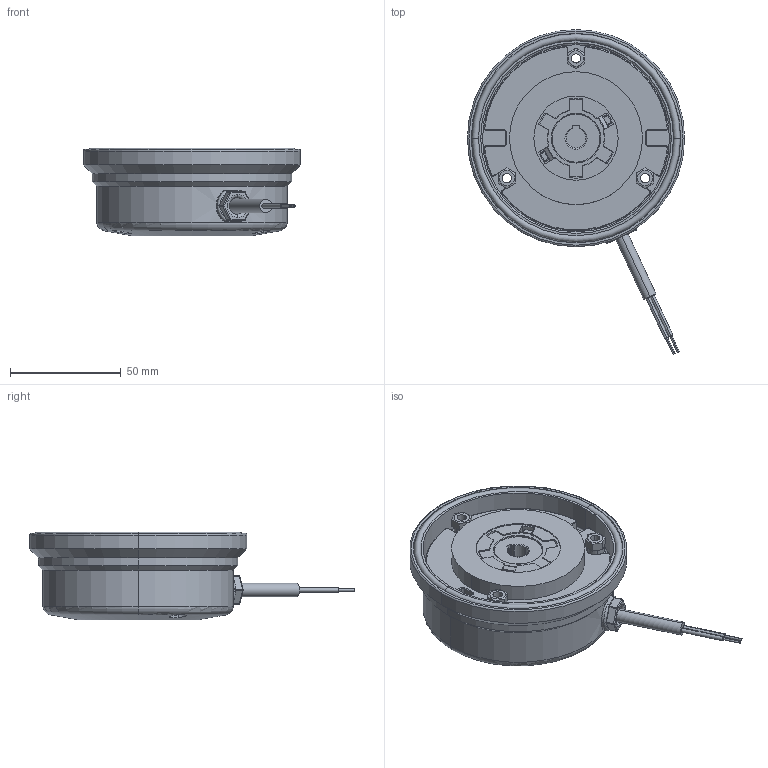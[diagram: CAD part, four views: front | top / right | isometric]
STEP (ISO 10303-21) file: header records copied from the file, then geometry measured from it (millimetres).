
FILE_DESCRIPTION (( 'STEP AP214' ), '1' );
FILE_NAME ('dr_bk_0228_mu.STEP', '2021-11-08T13:59:16', ( '' ), ( '' ), 'SwSTEP 2.0', 'SolidWorks 2019', '' );
FILE_SCHEMA (( 'AUTOMOTIVE_DESIGN' ));
Length unit declared in the file: millimetre
Products named in the file (8): 10068601_000; 10068348_000; 10068604_000; dr_bk_0228_mu; 10068346_000; 10068345_000; 10068603_000; 10068347_000
Assembly tree (9 placements, depth 2):
  dr_bk_0228_mu
    10068601_000
    10068345_000  x3
    10068347_000
    10068346_000
    10068348_000
    10068604_000
    10068603_000
Bounding box: 98 x 146.55 x 39.6 mm (x, y, z)
Volume: 202630 mm3; surface area: 61482.7 mm2
Topology: 11 solids, 11 shells, 653 faces, 1608 edges, 980 vertices
Faces by surface type: cylinder 289, plane 147, bspline 80, torus 70, cone 52, sphere 15
Entity records: 21402 total; most frequent: CARTESIAN_POINT 5496, DIRECTION 2990, ORIENTED_EDGE 2948, EDGE_CURVE 1474, AXIS2_PLACEMENT_3D 1238, VERTEX_POINT 904, CIRCLE 699, EDGE_LOOP 646
